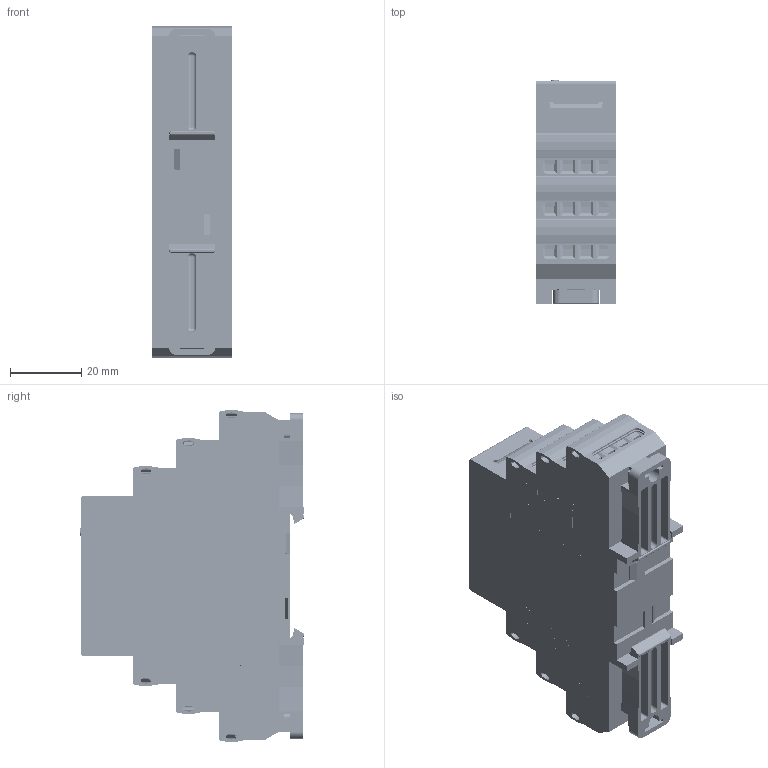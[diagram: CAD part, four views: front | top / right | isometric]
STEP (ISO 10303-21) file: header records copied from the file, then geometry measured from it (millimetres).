
FILE_DESCRIPTION(('STEP AP242'), '1');
FILE_NAME('ﾑ碚濱ﾌﾐﾏ-6(3ﾀ)', '', ('UNSPECIFIED'), ('UNSPECIFIED'), 'C3D Converter', 'C3D Toolkit', '');
FILE_SCHEMA(('AP242_MANAGED_MODEL_BASED_3D_ENGINEERING_MIM_LF { 1 0 10303 442 1 1 4 }'));
Length unit declared in the file: millimetre
Products named in the file (14): Case13-18-23mm_3step_Half_v01b____1_11.25mm; DG127-5.08-04P-4Y-00AH; Case23_2step_Face_v01; Case13-18-23mm_2step_Lock_v01a_Build20140909_1552
Assembly tree (20 placements, depth 2):
  (unnamed)
    Case13-18-23mm_3step_Half_v01b____1_11.25mm  x2
    DG127-5.08-04P-4Y-00AH  x6
    Case23_2step_Face_v01
    Case13-18-23mm_2step_Lock_v01a_Build20140909_1552  x2
    (unnamed)
    (unnamed)
    (unnamed)
    (unnamed)
    (unnamed)
    (unnamed)
    (unnamed)
    (unnamed)
    (unnamed)
Bounding box: 22.51 x 63.05 x 93.33 mm (x, y, z)
Volume: 27012.5 mm3; surface area: 45174.9 mm2
Topology: 281 solids, 281 shells, 14617 faces, 41042 edges, 27243 vertices
Faces by surface type: plane 10634, extrusion 2676, bspline 876, cylinder 350, torus 53, cone 20, sphere 8
Full cylindrical faces by diameter (mm): 1.6 x16, 2.1 x1, 2.2 x1, 3.5 x24, 3.7 x24
Entity records: 492697 total; most frequent: CARTESIAN_POINT 108425, ORIENTED_EDGE 65504, DIRECTION 47471, EDGE_CURVE 32752, VECTOR 29243, LINE 26567, VERTEX_POINT 21807, EDGE_LOOP 11899
